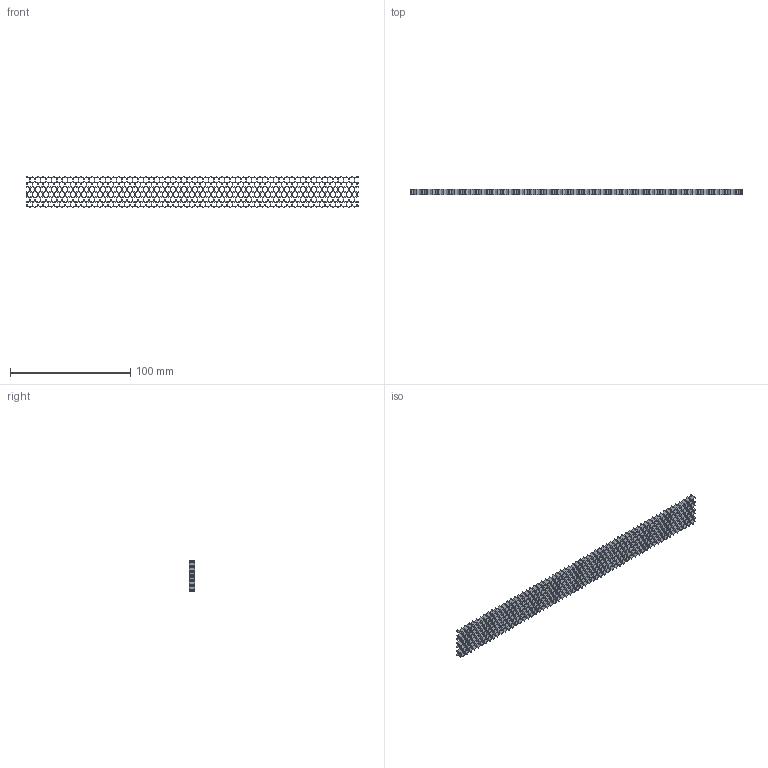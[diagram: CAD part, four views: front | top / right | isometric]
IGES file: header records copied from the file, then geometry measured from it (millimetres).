
Start section: SolidWorks IGES file using analytic representation for surfaces
Global section: file name: C:\Users\User\Desktop\燥鼫嚭鶆蹖 Outliner S\Honeycomb Outliner S.IGS; native system: SolidWorks 2020; preprocessor: SolidWorks 2020; author: User; date: 231115.183704; units: millimetre
Bounding box: 276 x 4.5 x 26.5 mm (x, y, z)
Volume: 7726.5 mm3; surface area: 29750.3 mm2
Topology: 1 solids, 1 shells, 2859 faces, 8571 edges, 5714 vertices
Faces by surface type: plane 2859
